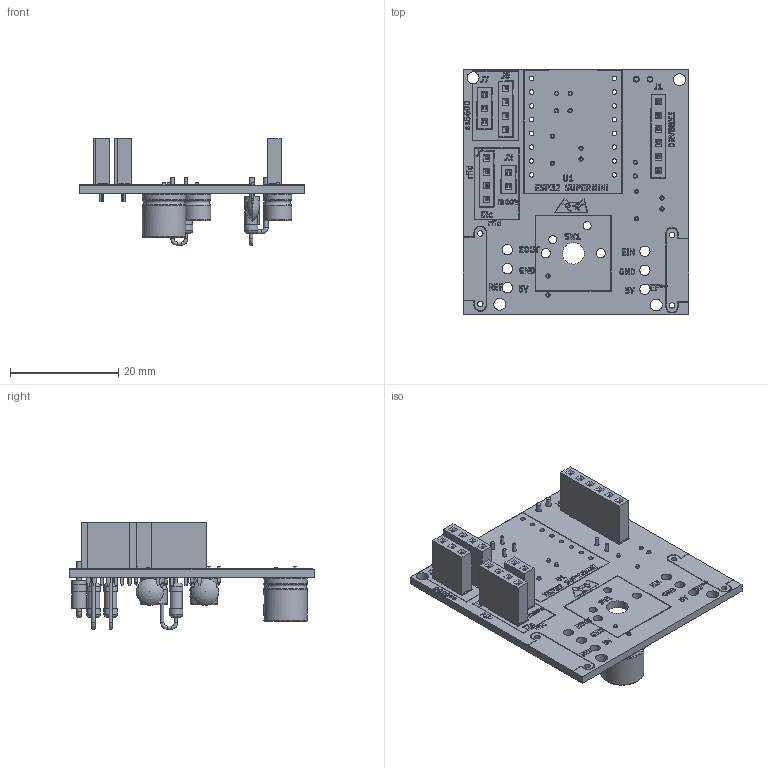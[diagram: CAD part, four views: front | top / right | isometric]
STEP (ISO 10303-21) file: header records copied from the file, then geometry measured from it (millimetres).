
FILE_DESCRIPTION(('KiCad electronic assembly'),'2;1');
FILE_NAME('slot_jackpad.step','2026-10-13T15:30:22',('Pcbnew'),('Kicad') ,'Open CASCADE STEP processor 7.9','KiCad to STEP converter','Unknown' );
FILE_SCHEMA(('AUTOMOTIVE_DESIGN { 1 0 10303 214 1 1 1 1 }'));
Length unit declared in the file: millimetre
Products named in the file (22): slot_jackpad 1; PinSocket_1x04_P2.54mm_Vertical; PinSocket_1x06_P2.54mm_Vertical; PinSocket_1x03_P2.54mm_Vertical; PinSocket_1x02_P2.54mm_Vertical; R_Axial_DIN0207_L6.3mm_D2.5mm_P2.54mm_Vertical; R_Axial_DIN0207_L63mm_D25mm_P254mm_Vertical; C_Disc_D5.0mm_W2.5mm_P5.00mm; C_Disc_D50mm_W25mm_P500mm; D_DO-41_SOD81_P2.54mm_Vertical_AnodeUp; CP_Radial_D8.0mm_P3.50mm; CP_Radial_D80mm_P350mm; CP_Radial_D5.0mm_P2.00mm; CP_Radial_D50mm_P200mm; sloAD80_silkscreen; sloAD80_PCB
Assembly tree (26 placements, depth 3):
  slot_jackpad 1
    PinSocket_1x04_P2.54mm_Vertical  x2
      PinSocket_1x04_P2.54mm_Vertical
    PinSocket_1x06_P2.54mm_Vertical
      PinSocket_1x06_P2.54mm_Vertical
    PinSocket_1x03_P2.54mm_Vertical
      PinSocket_1x03_P2.54mm_Vertical
    PinSocket_1x02_P2.54mm_Vertical
      PinSocket_1x02_P2.54mm_Vertical
    R_Axial_DIN0207_L6.3mm_D2.5mm_P2.54mm_Vertical  x3
      R_Axial_DIN0207_L63mm_D25mm_P254mm_Vertical
    C_Disc_D5.0mm_W2.5mm_P5.00mm  x2
      C_Disc_D50mm_W25mm_P500mm
    D_DO-41_SOD81_P2.54mm_Vertical_AnodeUp
      D_DO-41_SOD81_P2.54mm_Vertical_AnodeUp
    CP_Radial_D8.0mm_P3.50mm
      CP_Radial_D80mm_P350mm
    CP_Radial_D5.0mm_P2.00mm  x2
      CP_Radial_D50mm_P200mm
    sloAD80_silkscreen
    sloAD80_silkscreen
    sloAD80_PCB
Bounding box: 41.58 x 45 x 19.68 mm (x, y, z)
Volume: 4438.4 mm3; surface area: 7272.2 mm2
Topology: 15 solids, 195 shells, 1037 faces, 5219 edges, 4452 vertices
Faces by surface type: plane 824, cylinder 149, torus 20, revolution 20, bspline 20, sphere 4
Full cylindrical faces by diameter (mm): 0.5 x14, 0.6 x12, 0.8 x20, 0.84 x16, 1 x23, 1.1 x2, 1.5 x2, 1.7 x2, 1.9 x6, 2.2 x4, 2.25 x3, 2.5 x6, 2.7 x2, 2.72 x1, 4 x1
Entity records: 56641 total; most frequent: CARTESIAN_POINT 11549, DIRECTION 7500, ORIENTED_EDGE 6393, EDGE_CURVE 4726, VERTEX_POINT 4140, LINE 3509, VECTOR 3509, AXIS2_PLACEMENT_3D 1989
